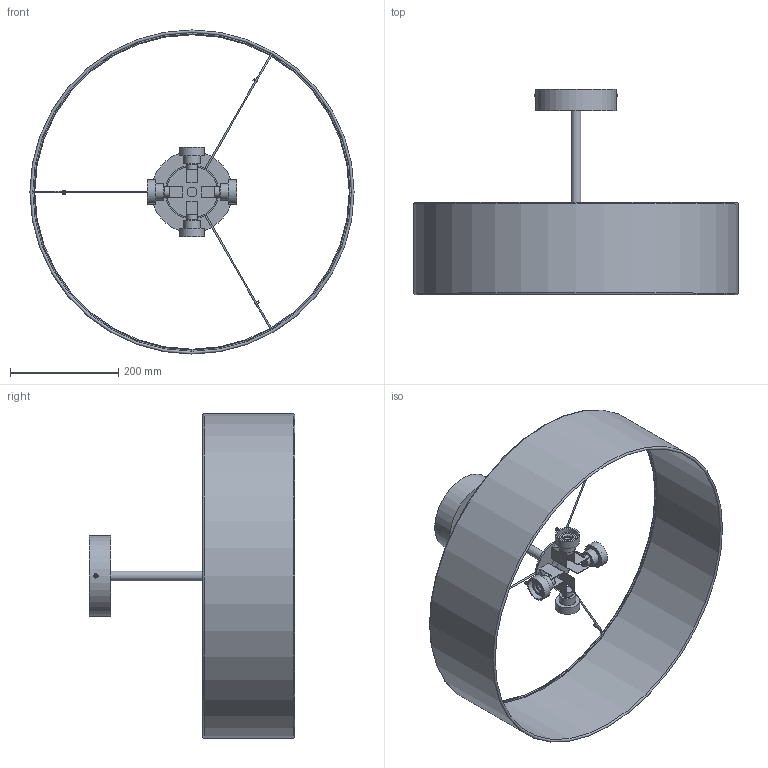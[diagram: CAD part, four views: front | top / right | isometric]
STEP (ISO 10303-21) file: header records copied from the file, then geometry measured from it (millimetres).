
FILE_DESCRIPTION(/* description */ (''),/* implementation_level */ '2;1');
FILE_NAME(/* name */ 'C:/Users/kubaw/OneDrive/Pulpit/Nowy folder/4242_RONDO/4242_RONDO v5.step',/* time_stamp */ '2021-03-13T09:29:00+01:00',/* author */ (''),/* organization */ (''),/* preprocessor_version */ 'ST-DEVELOPER v18.1',/* originating_system */ 'Autodesk Translation Framework v9.10.0.1330',/* authorisation */ '');
FILE_SCHEMA (('AUTOMOTIVE_DESIGN { 1 0 10303 214 3 1 1 }'));
Length unit declared in the file: millimetre
Products named in the file (4): 4242_RONDO; MOCOWANIE RONDO 4242; ŚRUBA _RONDO; ŚRUBA _RONDO v1(Mirror)
Assembly tree (3 placements, depth 2):
  4242_RONDO
    MOCOWANIE RONDO 4242
    ŚRUBA _RONDO
    ŚRUBA _RONDO v1(Mirror)
Bounding box: 600 x 380 x 600 mm (x, y, z)
Volume: 2504619.2 mm3; surface area: 842088.9 mm2
Topology: 42 solids, 42 shells, 417 faces, 992 edges, 650 vertices
Faces by surface type: plane 314, cylinder 86, torus 15, bspline 2
Full cylindrical faces by diameter (mm): 3 x6, 8 x2, 10 x1, 14.819 x8, 18 x3, 20 x1, 20.058 x4, 28.544 x4, 30 x4, 40 x4, 45 x4, 96 x1, 100 x1, 150 x1, 582 x1, 590 x1, 600 x1
Entity records: 12282 total; most frequent: CARTESIAN_POINT 2247, DIRECTION 2039, ORIENTED_EDGE 1984, EDGE_CURVE 992, LINE 743, VECTOR 743, VERTEX_POINT 650, AXIS2_PLACEMENT_3D 648
